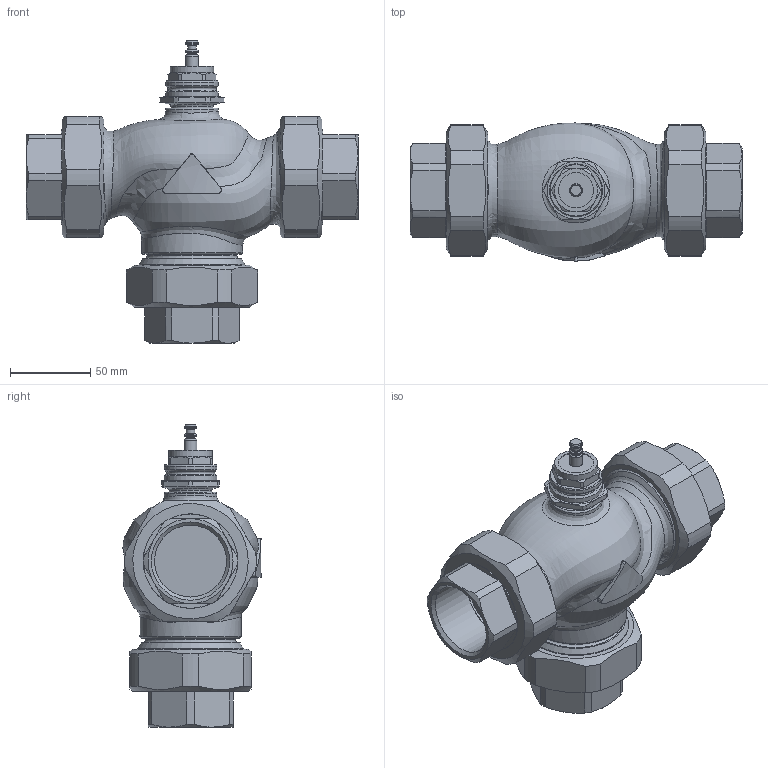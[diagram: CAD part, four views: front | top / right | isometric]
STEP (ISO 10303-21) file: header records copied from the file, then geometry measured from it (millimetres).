
FILE_DESCRIPTION(/* description */ (''),/* implementation_level */ '2;1');
FILE_NAME(/* name */ 'rv111s_dn40_3_T.stp',/* time_stamp */ '2012-02-28T09:05:37+01:00',/* author */ ('KLIMES'),/* organization */ ('LDM'),/* preprocessor_version */ 'ST-DEVELOPER v11',/* originating_system */ 'SIEMENS PLM Software NX 7.0',/* authorisation */ '');
FILE_SCHEMA (('CONFIG_CONTROL_DESIGN'));
Length unit declared in the file: millimetre
Products named in the file (1): klimEAFB3cju
Bounding box: 207 x 86.15 x 188.45 mm (x, y, z)
Volume: 928662.2 mm3; surface area: 144843.7 mm2
Topology: 10 solids, 10 shells, 276 faces, 642 edges, 408 vertices
Faces by surface type: plane 111, cylinder 74, cone 57, bspline 21, torus 13
Full cylindrical faces by diameter (mm): 5.3 x1, 5.5 x1, 8 x3, 22 x1, 26.5 x1, 27 x1, 33 x3, 44.845 x3, 50 x6, 56 x1, 58.8 x3, 59 x3, 62 x3, 62.6 x3, 62.752 x3, 63 x1, 65.71 x3
Entity records: 13435 total; most frequent: CARTESIAN_POINT 7772, DIRECTION 1130, ORIENTED_EDGE 1048, EDGE_CURVE 524, AXIS2_PLACEMENT_3D 502, EDGE_LOOP 397, VERTEX_POINT 371, ADVANCED_FACE 276
